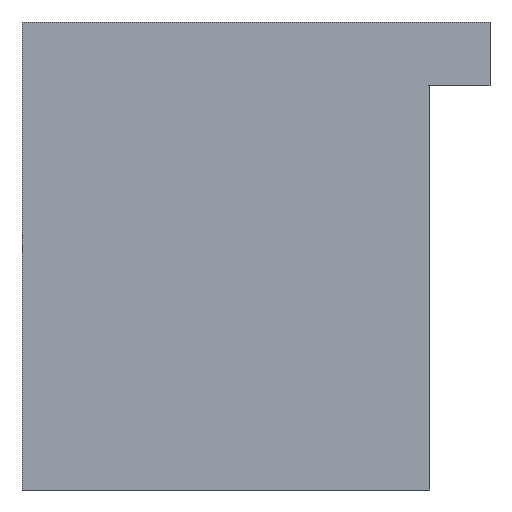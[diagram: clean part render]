
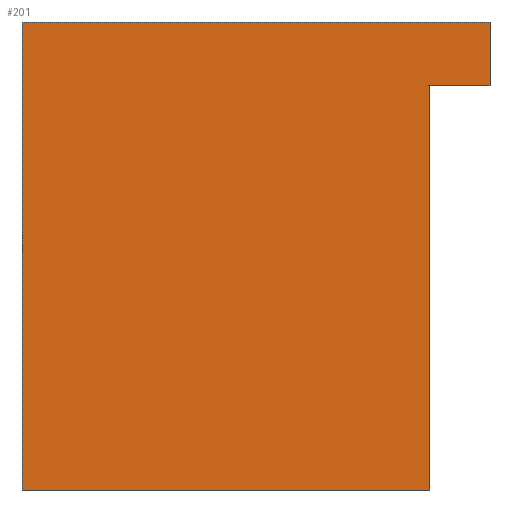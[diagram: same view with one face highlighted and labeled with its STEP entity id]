
A CAD part, left-side view. The second image highlights one B-rep face of the part: STEP entity #201.
In plain terms, the highlighted planar face has unit normal (-1, 0, 0).
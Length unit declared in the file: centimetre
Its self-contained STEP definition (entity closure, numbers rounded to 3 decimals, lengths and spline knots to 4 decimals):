
#6 = AXIS2_PLACEMENT_3D ( 'NONE', #152, #48, #85 ) ;
#7 = EDGE_CURVE ( 'NONE', #436, #71, #367, .T. ) ;
#12 = CARTESIAN_POINT ( 'NONE',  ( 0., 0., 1000. ) ) ;
#30 = ORIENTED_EDGE ( 'NONE', *, *, #141, .F. ) ;
#33 = VERTEX_POINT ( 'NONE', #42 ) ;
#37 = ORIENTED_EDGE ( 'NONE', *, *, #7, .F. ) ;
#42 = CARTESIAN_POINT ( 'NONE',  ( 0., 1000., 1000. ) ) ;
#48 = DIRECTION ( 'NONE',  ( 1., 0., 0. ) ) ;
#57 = EDGE_CURVE ( 'NONE', #33, #398, #224, .T. ) ;
#71 = VERTEX_POINT ( 'NONE', #197 ) ;
#85 = DIRECTION ( 'NONE',  ( 0., 0., -1. ) ) ;
#96 = EDGE_CURVE ( 'NONE', #398, #130, #158, .T. ) ;
#106 = ORIENTED_EDGE ( 'NONE', *, *, #334, .F. ) ;
#112 = EDGE_LOOP ( 'NONE', ( #187, #434, #37, #30, #106, #137 ) ) ;
#119 = DIRECTION ( 'NONE',  ( 0., 0., -1. ) ) ;
#130 = VERTEX_POINT ( 'NONE', #446 ) ;
#132 = CARTESIAN_POINT ( 'NONE',  ( 0., 1000., 0. ) ) ;
#137 = ORIENTED_EDGE ( 'NONE', *, *, #57, .T. ) ;
#141 = EDGE_CURVE ( 'NONE', #175, #436, #193, .T. ) ;
#152 = CARTESIAN_POINT ( 'NONE',  ( 0., 1000., 1000. ) ) ;
#154 = DIRECTION ( 'NONE',  ( 0., -1., 0. ) ) ;
#158 = LINE ( 'NONE', #302, #274 ) ;
#175 = VERTEX_POINT ( 'NONE', #12 ) ;
#187 = ORIENTED_EDGE ( 'NONE', *, *, #96, .T. ) ;
#193 = LINE ( 'NONE', #377, #337 ) ;
#197 = CARTESIAN_POINT ( 'NONE',  ( 0., 128.8914, 864.0087 ) ) ;
#201 = ADVANCED_FACE ( 'NONE', ( #375 ), #420, .F. ) ;
#205 = EDGE_CURVE ( 'NONE', #71, #130, #297, .T. ) ;
#210 = CARTESIAN_POINT ( 'NONE',  ( 0., 1000., 1000. ) ) ;
#224 = LINE ( 'NONE', #444, #385 ) ;
#241 = LINE ( 'NONE', #210, #266 ) ;
#266 = VECTOR ( 'NONE', #354, 100. ) ;
#267 = DIRECTION ( 'NONE',  ( 0., 0., -1. ) ) ;
#274 = VECTOR ( 'NONE', #154, 100. ) ;
#285 = DIRECTION ( 'NONE',  ( 0., 1., 0. ) ) ;
#295 = DIRECTION ( 'NONE',  ( 0., 0., -1. ) ) ;
#297 = LINE ( 'NONE', #343, #330 ) ;
#302 = CARTESIAN_POINT ( 'NONE',  ( 0., 1000., 0. ) ) ;
#322 = VECTOR ( 'NONE', #285, 100. ) ;
#330 = VECTOR ( 'NONE', #295, 100. ) ;
#334 = EDGE_CURVE ( 'NONE', #33, #175, #241, .T. ) ;
#337 = VECTOR ( 'NONE', #267, 100. ) ;
#340 = CARTESIAN_POINT ( 'NONE',  ( 0., 0., 864.0087 ) ) ;
#343 = CARTESIAN_POINT ( 'NONE',  ( 0., 128.8914, 864.0087 ) ) ;
#354 = DIRECTION ( 'NONE',  ( 0., -1., 0. ) ) ;
#367 = LINE ( 'NONE', #439, #322 ) ;
#375 = FACE_OUTER_BOUND ( 'NONE', #112, .T. ) ;
#377 = CARTESIAN_POINT ( 'NONE',  ( 0., 0., 1000. ) ) ;
#385 = VECTOR ( 'NONE', #119, 100. ) ;
#398 = VERTEX_POINT ( 'NONE', #132 ) ;
#420 = PLANE ( 'NONE',  #6 ) ;
#434 = ORIENTED_EDGE ( 'NONE', *, *, #205, .F. ) ;
#436 = VERTEX_POINT ( 'NONE', #340 ) ;
#439 = CARTESIAN_POINT ( 'NONE',  ( 0., 128.8914, 864.0087 ) ) ;
#444 = CARTESIAN_POINT ( 'NONE',  ( 0., 1000., 1000. ) ) ;
#446 = CARTESIAN_POINT ( 'NONE',  ( 0., 128.8914, 0. ) ) ;
